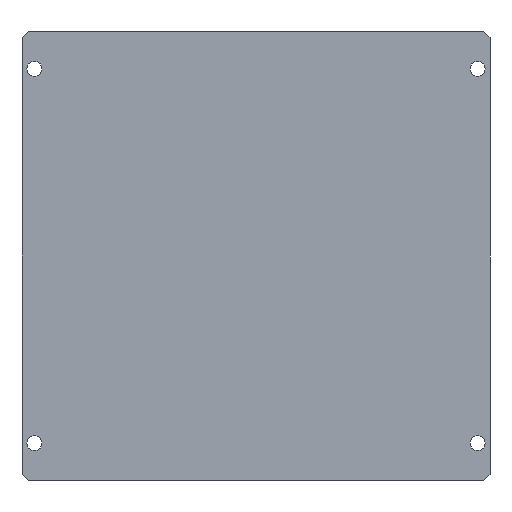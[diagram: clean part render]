
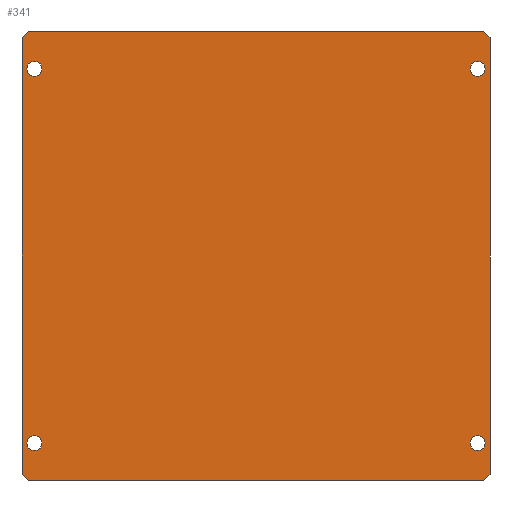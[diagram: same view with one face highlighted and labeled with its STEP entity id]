
A CAD part, front view. The second image highlights one B-rep face of the part: STEP entity #341.
In plain terms, the highlighted planar face has unit normal (0, -1, 0).
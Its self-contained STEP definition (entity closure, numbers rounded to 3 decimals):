
#12 = CARTESIAN_POINT ( 'NONE',  ( 35.5, 0., 28.8 ) ) ;
#15 = VECTOR ( 'NONE', #744, 1000. ) ;
#16 = VERTEX_POINT ( 'NONE', #142 ) ;
#18 = AXIS2_PLACEMENT_3D ( 'NONE', #633, #579, #500 ) ;
#21 = ORIENTED_EDGE ( 'NONE', *, *, #453, .T. ) ;
#24 = EDGE_CURVE ( 'NONE', #347, #408, #785, .T. ) ;
#31 = DIRECTION ( 'NONE',  ( 0., 1., 0. ) ) ;
#38 = FACE_BOUND ( 'NONE', #406, .T. ) ;
#40 = ORIENTED_EDGE ( 'NONE', *, *, #355, .T. ) ;
#49 = LINE ( 'NONE', #291, #397 ) ;
#50 = CIRCLE ( 'NONE', #518, 1.2 ) ;
#52 = ORIENTED_EDGE ( 'NONE', *, *, #601, .T. ) ;
#59 = DIRECTION ( 'NONE',  ( 0., 0., 1. ) ) ;
#69 = VERTEX_POINT ( 'NONE', #458 ) ;
#72 = DIRECTION ( 'NONE',  ( 0., 0., 1. ) ) ;
#83 = CIRCLE ( 'NONE', #139, 1.2 ) ;
#93 = DIRECTION ( 'NONE',  ( 0., 0., 1. ) ) ;
#95 = VERTEX_POINT ( 'NONE', #462 ) ;
#96 = VERTEX_POINT ( 'NONE', #529 ) ;
#101 = AXIS2_PLACEMENT_3D ( 'NONE', #724, #675, #172 ) ;
#104 = ORIENTED_EDGE ( 'NONE', *, *, #716, .T. ) ;
#110 = CARTESIAN_POINT ( 'NONE',  ( -37.5, 0., -35. ) ) ;
#111 = FACE_BOUND ( 'NONE', #568, .T. ) ;
#114 = CARTESIAN_POINT ( 'NONE',  ( 35.5, 0., -31.2 ) ) ;
#117 = DIRECTION ( 'NONE',  ( -1., 0., 0. ) ) ;
#124 = VERTEX_POINT ( 'NONE', #703 ) ;
#127 = DIRECTION ( 'NONE',  ( 0., 1., 0. ) ) ;
#130 = EDGE_CURVE ( 'NONE', #581, #637, #83, .T. ) ;
#132 = CARTESIAN_POINT ( 'NONE',  ( 36.5, 0., -36. ) ) ;
#136 = VERTEX_POINT ( 'NONE', #338 ) ;
#137 = VECTOR ( 'NONE', #577, 1000. ) ;
#139 = AXIS2_PLACEMENT_3D ( 'NONE', #285, #31, #387 ) ;
#142 = CARTESIAN_POINT ( 'NONE',  ( -35.5, 0., -28.8 ) ) ;
#146 = EDGE_CURVE ( 'NONE', #637, #581, #303, .T. ) ;
#154 = ORIENTED_EDGE ( 'NONE', *, *, #204, .T. ) ;
#160 = DIRECTION ( 'NONE',  ( 0., 1., 0. ) ) ;
#165 = CIRCLE ( 'NONE', #276, 1.2 ) ;
#167 = DIRECTION ( 'NONE',  ( 0.707, 0., -0.707 ) ) ;
#172 = DIRECTION ( 'NONE',  ( 0., 0., 1. ) ) ;
#178 = CARTESIAN_POINT ( 'NONE',  ( 37.5, 0., 35. ) ) ;
#180 = CARTESIAN_POINT ( 'NONE',  ( 36.5, 0., 36. ) ) ;
#183 = FACE_BOUND ( 'NONE', #322, .T. ) ;
#185 = VERTEX_POINT ( 'NONE', #712 ) ;
#196 = ORIENTED_EDGE ( 'NONE', *, *, #330, .T. ) ;
#200 = VERTEX_POINT ( 'NONE', #114 ) ;
#204 = EDGE_CURVE ( 'NONE', #69, #16, #411, .T. ) ;
#210 = ORIENTED_EDGE ( 'NONE', *, *, #414, .T. ) ;
#212 = ORIENTED_EDGE ( 'NONE', *, *, #372, .F. ) ;
#214 = VECTOR ( 'NONE', #167, 1000. ) ;
#243 = DIRECTION ( 'NONE',  ( 0., 0., 1. ) ) ;
#248 = DIRECTION ( 'NONE',  ( -0.707, 0., 0.707 ) ) ;
#255 = CARTESIAN_POINT ( 'NONE',  ( -35.5, 0., 30. ) ) ;
#276 = AXIS2_PLACEMENT_3D ( 'NONE', #614, #127, #243 ) ;
#285 = CARTESIAN_POINT ( 'NONE',  ( 35.5, 0., 30. ) ) ;
#291 = CARTESIAN_POINT ( 'NONE',  ( -37.5, 0., -36. ) ) ;
#294 = EDGE_CURVE ( 'NONE', #136, #185, #49, .T. ) ;
#299 = ORIENTED_EDGE ( 'NONE', *, *, #294, .F. ) ;
#300 = PLANE ( 'NONE',  #101 ) ;
#301 = CIRCLE ( 'NONE', #18, 1.2 ) ;
#303 = CIRCLE ( 'NONE', #354, 1.2 ) ;
#312 = LINE ( 'NONE', #357, #592 ) ;
#320 = FACE_BOUND ( 'NONE', #369, .T. ) ;
#322 = EDGE_LOOP ( 'NONE', ( #210, #154 ) ) ;
#328 = CIRCLE ( 'NONE', #526, 1.2 ) ;
#330 = EDGE_CURVE ( 'NONE', #136, #95, #621, .T. ) ;
#333 = DIRECTION ( 'NONE',  ( 0., 0., 1. ) ) ;
#334 = ORIENTED_EDGE ( 'NONE', *, *, #130, .T. ) ;
#338 = CARTESIAN_POINT ( 'NONE',  ( -37.5, 0., -35. ) ) ;
#341 = ADVANCED_FACE ( 'NONE', ( #183, #38, #111, #320, #446 ), #300, .F. ) ;
#347 = VERTEX_POINT ( 'NONE', #490 ) ;
#354 = AXIS2_PLACEMENT_3D ( 'NONE', #762, #459, #93 ) ;
#355 = EDGE_CURVE ( 'NONE', #469, #200, #328, .T. ) ;
#356 = CARTESIAN_POINT ( 'NONE',  ( -35.5, 0., 31.2 ) ) ;
#357 = CARTESIAN_POINT ( 'NONE',  ( -36.5, 0., 36. ) ) ;
#363 = CARTESIAN_POINT ( 'NONE',  ( -37.5, 0., -36. ) ) ;
#367 = DIRECTION ( 'NONE',  ( 1., 0., 0. ) ) ;
#369 = EDGE_LOOP ( 'NONE', ( #40, #492 ) ) ;
#372 = EDGE_CURVE ( 'NONE', #656, #95, #404, .T. ) ;
#376 = LINE ( 'NONE', #427, #781 ) ;
#387 = DIRECTION ( 'NONE',  ( 0., 0., 1. ) ) ;
#393 = EDGE_CURVE ( 'NONE', #96, #768, #644, .T. ) ;
#397 = VECTOR ( 'NONE', #774, 1000. ) ;
#404 = LINE ( 'NONE', #363, #761 ) ;
#406 = EDGE_LOOP ( 'NONE', ( #104, #512 ) ) ;
#408 = VERTEX_POINT ( 'NONE', #356 ) ;
#411 = CIRCLE ( 'NONE', #718, 1.2 ) ;
#414 = EDGE_CURVE ( 'NONE', #16, #69, #165, .T. ) ;
#419 = CARTESIAN_POINT ( 'NONE',  ( -35.5, 0., -30. ) ) ;
#427 = CARTESIAN_POINT ( 'NONE',  ( -37.5, 0., 36. ) ) ;
#435 = CARTESIAN_POINT ( 'NONE',  ( 37.5, 0., -35. ) ) ;
#442 = DIRECTION ( 'NONE',  ( 0., 1., 0. ) ) ;
#443 = VECTOR ( 'NONE', #248, 1000. ) ;
#446 = FACE_OUTER_BOUND ( 'NONE', #676, .T. ) ;
#448 = ORIENTED_EDGE ( 'NONE', *, *, #475, .F. ) ;
#453 = EDGE_CURVE ( 'NONE', #124, #185, #312, .T. ) ;
#458 = CARTESIAN_POINT ( 'NONE',  ( -35.5, 0., -31.2 ) ) ;
#459 = DIRECTION ( 'NONE',  ( 0., 1., 0. ) ) ;
#462 = CARTESIAN_POINT ( 'NONE',  ( -36.5, 0., -36. ) ) ;
#469 = VERTEX_POINT ( 'NONE', #786 ) ;
#475 = EDGE_CURVE ( 'NONE', #124, #768, #376, .T. ) ;
#490 = CARTESIAN_POINT ( 'NONE',  ( -35.5, 0., 28.8 ) ) ;
#492 = ORIENTED_EDGE ( 'NONE', *, *, #502, .T. ) ;
#494 = ORIENTED_EDGE ( 'NONE', *, *, #393, .T. ) ;
#500 = DIRECTION ( 'NONE',  ( 0., 0., 1. ) ) ;
#502 = EDGE_CURVE ( 'NONE', #200, #469, #301, .T. ) ;
#512 = ORIENTED_EDGE ( 'NONE', *, *, #24, .T. ) ;
#513 = LINE ( 'NONE', #683, #137 ) ;
#518 = AXIS2_PLACEMENT_3D ( 'NONE', #255, #442, #72 ) ;
#520 = CARTESIAN_POINT ( 'NONE',  ( -35.5, 0., 30. ) ) ;
#526 = AXIS2_PLACEMENT_3D ( 'NONE', #673, #669, #59 ) ;
#528 = LINE ( 'NONE', #684, #15 ) ;
#529 = CARTESIAN_POINT ( 'NONE',  ( 37.5, 0., 35. ) ) ;
#568 = EDGE_LOOP ( 'NONE', ( #334, #725 ) ) ;
#574 = CARTESIAN_POINT ( 'NONE',  ( 35.5, 0., 31.2 ) ) ;
#577 = DIRECTION ( 'NONE',  ( 0.707, 0., 0.707 ) ) ;
#579 = DIRECTION ( 'NONE',  ( 0., 1., 0. ) ) ;
#581 = VERTEX_POINT ( 'NONE', #574 ) ;
#586 = DIRECTION ( 'NONE',  ( 0., 1., 0. ) ) ;
#589 = AXIS2_PLACEMENT_3D ( 'NONE', #520, #586, #333 ) ;
#592 = VECTOR ( 'NONE', #782, 1000. ) ;
#600 = ORIENTED_EDGE ( 'NONE', *, *, #777, .F. ) ;
#601 = EDGE_CURVE ( 'NONE', #656, #658, #513, .T. ) ;
#602 = DIRECTION ( 'NONE',  ( 0., 0., 1. ) ) ;
#614 = CARTESIAN_POINT ( 'NONE',  ( -35.5, 0., -30. ) ) ;
#621 = LINE ( 'NONE', #110, #214 ) ;
#633 = CARTESIAN_POINT ( 'NONE',  ( 35.5, 0., -30. ) ) ;
#637 = VERTEX_POINT ( 'NONE', #12 ) ;
#644 = LINE ( 'NONE', #178, #443 ) ;
#656 = VERTEX_POINT ( 'NONE', #132 ) ;
#658 = VERTEX_POINT ( 'NONE', #435 ) ;
#669 = DIRECTION ( 'NONE',  ( 0., 1., 0. ) ) ;
#673 = CARTESIAN_POINT ( 'NONE',  ( 35.5, 0., -30. ) ) ;
#675 = DIRECTION ( 'NONE',  ( 0., 1., 0. ) ) ;
#676 = EDGE_LOOP ( 'NONE', ( #600, #494, #448, #21, #299, #196, #212, #52 ) ) ;
#683 = CARTESIAN_POINT ( 'NONE',  ( 36.5, 0., -36. ) ) ;
#684 = CARTESIAN_POINT ( 'NONE',  ( 37.5, 0., -36. ) ) ;
#703 = CARTESIAN_POINT ( 'NONE',  ( -36.5, 0., 36. ) ) ;
#712 = CARTESIAN_POINT ( 'NONE',  ( -37.5, 0., 35. ) ) ;
#716 = EDGE_CURVE ( 'NONE', #408, #347, #50, .T. ) ;
#718 = AXIS2_PLACEMENT_3D ( 'NONE', #419, #160, #602 ) ;
#724 = CARTESIAN_POINT ( 'NONE',  ( -37.5, 0., 36. ) ) ;
#725 = ORIENTED_EDGE ( 'NONE', *, *, #146, .T. ) ;
#744 = DIRECTION ( 'NONE',  ( 0., 0., -1. ) ) ;
#761 = VECTOR ( 'NONE', #117, 1000. ) ;
#762 = CARTESIAN_POINT ( 'NONE',  ( 35.5, 0., 30. ) ) ;
#768 = VERTEX_POINT ( 'NONE', #180 ) ;
#774 = DIRECTION ( 'NONE',  ( 0., 0., 1. ) ) ;
#777 = EDGE_CURVE ( 'NONE', #96, #658, #528, .T. ) ;
#781 = VECTOR ( 'NONE', #367, 1000. ) ;
#782 = DIRECTION ( 'NONE',  ( -0.707, 0., -0.707 ) ) ;
#785 = CIRCLE ( 'NONE', #589, 1.2 ) ;
#786 = CARTESIAN_POINT ( 'NONE',  ( 35.5, 0., -28.8 ) ) ;
